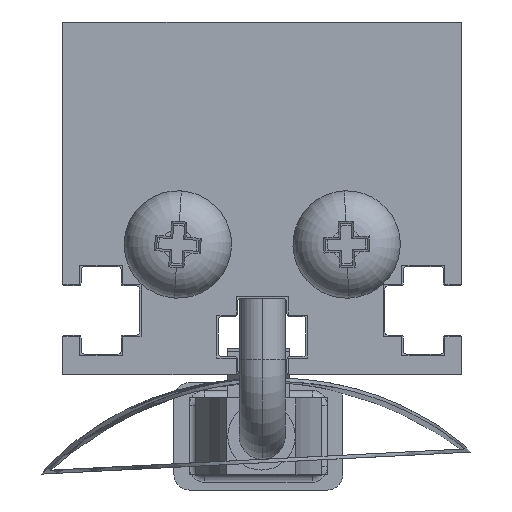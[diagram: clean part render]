
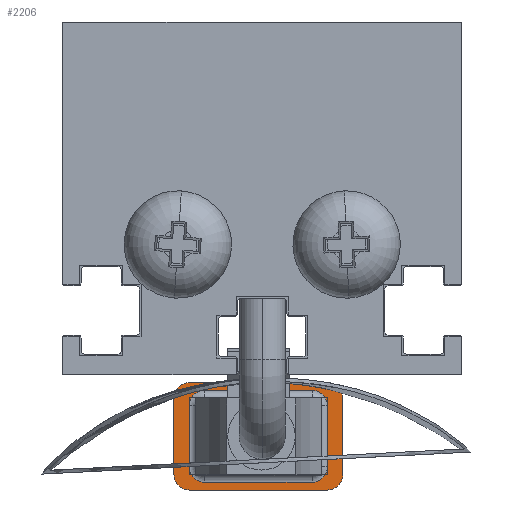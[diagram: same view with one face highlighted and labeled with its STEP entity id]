
A CAD part, left-side view. The second image highlights one B-rep face of the part: STEP entity #2206.
In plain terms, the highlighted planar face has unit normal (-1, 0, 0).
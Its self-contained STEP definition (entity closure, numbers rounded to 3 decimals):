
#2206=ADVANCED_FACE('NONE',(#4487,#4488),#4489,.F.);
#4487=FACE_OUTER_BOUND('',#7072,.T.);
#4488=FACE_BOUND('',#7073,.T.);
#4489=PLANE('',#7074);
#7072=EDGE_LOOP('',(#13642,#13643,#13644,#13645,#13646,#13647,#13648,#13649,#13650,#13651,#13652,#13653));
#7073=EDGE_LOOP('',(#13654,#13655,#13656,#13657,#13658,#13659,#13660,#13661));
#7074=AXIS2_PLACEMENT_3D('',#13662,#13663,#13664);
#13642=ORIENTED_EDGE('',*,*,#18069,.T.);
#13643=ORIENTED_EDGE('',*,*,#17871,.T.);
#13644=ORIENTED_EDGE('',*,*,#18077,.F.);
#13645=ORIENTED_EDGE('',*,*,#17866,.T.);
#13646=ORIENTED_EDGE('',*,*,#18090,.F.);
#13647=ORIENTED_EDGE('',*,*,#17913,.T.);
#13648=ORIENTED_EDGE('',*,*,#18088,.F.);
#13649=ORIENTED_EDGE('',*,*,#17922,.F.);
#13650=ORIENTED_EDGE('',*,*,#18072,.F.);
#13651=ORIENTED_EDGE('',*,*,#17863,.T.);
#13652=ORIENTED_EDGE('',*,*,#18080,.T.);
#13653=ORIENTED_EDGE('',*,*,#17858,.T.);
#13654=ORIENTED_EDGE('',*,*,#17887,.F.);
#13655=ORIENTED_EDGE('',*,*,#17877,.T.);
#13656=ORIENTED_EDGE('',*,*,#17890,.F.);
#13657=ORIENTED_EDGE('',*,*,#17898,.T.);
#13658=ORIENTED_EDGE('',*,*,#17906,.F.);
#13659=ORIENTED_EDGE('',*,*,#17909,.T.);
#13660=ORIENTED_EDGE('',*,*,#17903,.F.);
#13661=ORIENTED_EDGE('',*,*,#17895,.T.);
#13662=CARTESIAN_POINT('',(11.0,9.5,3.5));
#13663=DIRECTION('',(1.0,0.0,0.0));
#13664=DIRECTION('',(0.0,1.0,0.0));
#17858=EDGE_CURVE('NONE',#22196,#22194,#22197,.T.);
#17863=EDGE_CURVE('NONE',#22205,#22203,#22206,.T.);
#17866=EDGE_CURVE('NONE',#22209,#22210,#22211,.T.);
#17871=EDGE_CURVE('NONE',#22218,#22219,#22220,.T.);
#17877=EDGE_CURVE('NONE',#22230,#22228,#22231,.T.);
#17887=EDGE_CURVE('NONE',#22230,#22244,#22248,.T.);
#17890=EDGE_CURVE('NONE',#22251,#22228,#22253,.T.);
#17895=EDGE_CURVE('NONE',#22256,#22244,#22260,.T.);
#17898=EDGE_CURVE('NONE',#22251,#22263,#22265,.T.);
#17903=EDGE_CURVE('NONE',#22256,#22268,#22272,.T.);
#17906=EDGE_CURVE('NONE',#22275,#22263,#22277,.T.);
#17909=EDGE_CURVE('NONE',#22275,#22268,#22280,.T.);
#17913=EDGE_CURVE('NONE',#22286,#22283,#22287,.T.);
#17922=EDGE_CURVE('NONE',#22301,#22294,#22303,.T.);
#18069=EDGE_CURVE('NONE',#22194,#22218,#22540,.T.);
#18072=EDGE_CURVE('NONE',#22205,#22301,#22543,.T.);
#18077=EDGE_CURVE('NONE',#22209,#22219,#22548,.T.);
#18080=EDGE_CURVE('NONE',#22203,#22196,#22551,.T.);
#18088=EDGE_CURVE('NONE',#22294,#22283,#22559,.T.);
#18090=EDGE_CURVE('NONE',#22286,#22210,#22561,.T.);
#22194=VERTEX_POINT('NONE',#28446);
#22196=VERTEX_POINT('NONE',#28449);
#22197=CIRCLE('',#28450,1.0);
#22203=VERTEX_POINT('NONE',#28457);
#22205=VERTEX_POINT('NONE',#28460);
#22206=CIRCLE('',#28461,1.0);
#22209=VERTEX_POINT('NONE',#28465);
#22210=VERTEX_POINT('NONE',#28466);
#22211=CIRCLE('',#28467,1.0);
#22218=VERTEX_POINT('NONE',#28476);
#22219=VERTEX_POINT('NONE',#28477);
#22220=CIRCLE('',#28478,1.0);
#22228=VERTEX_POINT('NONE',#28488);
#22230=VERTEX_POINT('NONE',#28490);
#22231=LINE('',#28491,#28492);
#22244=VERTEX_POINT('NONE',#28508);
#22248=CIRCLE('',#28512,1.0);
#22251=VERTEX_POINT('NONE',#28515);
#22253=CIRCLE('',#28517,1.0);
#22256=VERTEX_POINT('NONE',#28520);
#22260=LINE('',#28525,#28526);
#22263=VERTEX_POINT('NONE',#28529);
#22265=LINE('',#28531,#28532);
#22268=VERTEX_POINT('NONE',#28536);
#22272=CIRCLE('',#28540,1.0);
#22275=VERTEX_POINT('NONE',#28543);
#22277=CIRCLE('',#28545,1.0);
#22280=LINE('',#28548,#28549);
#22283=VERTEX_POINT('NONE',#28553);
#22286=VERTEX_POINT('NONE',#28557);
#22287=LINE('',#28558,#28559);
#22294=VERTEX_POINT('NONE',#28569);
#22301=VERTEX_POINT('NONE',#28579);
#22303=LINE('',#28582,#28583);
#22540=LINE('',#28941,#28942);
#22543=LINE('',#28946,#28947);
#22548=LINE('',#28954,#28955);
#22551=LINE('',#28959,#28960);
#22559=LINE('',#28971,#28972);
#22561=LINE('',#28974,#28975);
#28446=CARTESIAN_POINT('',(11.0,8.5,-3.5));
#28449=CARTESIAN_POINT('',(11.0,9.5,-2.5));
#28450=AXIS2_PLACEMENT_3D('',#37073,#37074,#37075);
#28457=CARTESIAN_POINT('',(11.0,9.5,2.5));
#28460=CARTESIAN_POINT('',(11.0,8.5,3.5));
#28461=AXIS2_PLACEMENT_3D('',#37081,#37082,#37083);
#28465=CARTESIAN_POINT('',(11.0,-1.5,2.5));
#28466=CARTESIAN_POINT('',(11.0,-0.5,3.5));
#28467=AXIS2_PLACEMENT_3D('',#37085,#37086,#37087);
#28476=CARTESIAN_POINT('',(11.0,-0.5,-3.5));
#28477=CARTESIAN_POINT('',(11.0,-1.5,-2.5));
#28478=AXIS2_PLACEMENT_3D('',#37093,#37094,#37095);
#28488=CARTESIAN_POINT('',(11.0,0.5,3.0));
#28490=CARTESIAN_POINT('',(11.0,7.5,3.0));
#28491=CARTESIAN_POINT('',(11.0,9.5,3.0));
#28492=VECTOR('',#37104,1000.0);
#28508=CARTESIAN_POINT('',(11.0,8.5,2.0));
#28512=AXIS2_PLACEMENT_3D('',#37123,#37124,#37125);
#28515=CARTESIAN_POINT('',(11.0,-0.5,2.0));
#28517=AXIS2_PLACEMENT_3D('',#37129,#37130,#37131);
#28520=CARTESIAN_POINT('',(11.0,8.5,-2.0));
#28525=CARTESIAN_POINT('',(11.0,8.5,2.5));
#28526=VECTOR('',#37139,1000.0);
#28529=CARTESIAN_POINT('',(11.0,-0.5,-2.0));
#28531=CARTESIAN_POINT('',(11.0,-0.5,-2.5));
#28532=VECTOR('',#37143,1000.0);
#28536=CARTESIAN_POINT('',(11.0,7.5,-3.0));
#28540=AXIS2_PLACEMENT_3D('',#37151,#37152,#37153);
#28543=CARTESIAN_POINT('',(11.0,0.5,-3.0));
#28545=AXIS2_PLACEMENT_3D('',#37157,#37158,#37159);
#28548=CARTESIAN_POINT('',(11.0,8.0,-3.0));
#28549=VECTOR('',#37163,1000.0);
#28553=CARTESIAN_POINT('',(11.0,3.0,4.0));
#28557=CARTESIAN_POINT('',(11.0,3.0,3.5));
#28558=CARTESIAN_POINT('',(11.0,3.0,4.0));
#28559=VECTOR('',#37166,1000.0);
#28569=CARTESIAN_POINT('',(11.0,5.0,4.0));
#28579=CARTESIAN_POINT('',(11.0,5.0,3.5));
#28582=CARTESIAN_POINT('',(11.0,5.0,4.0));
#28583=VECTOR('',#37174,1000.0);
#28941=CARTESIAN_POINT('',(11.0,9.5,-3.5));
#28942=VECTOR('',#37296,1000.0);
#28946=CARTESIAN_POINT('',(11.0,9.5,3.5));
#28947=VECTOR('',#37298,1000.0);
#28954=CARTESIAN_POINT('',(11.0,-1.5,3.5));
#28955=VECTOR('',#37301,1000.0);
#28959=CARTESIAN_POINT('',(11.0,9.5,3.5));
#28960=VECTOR('',#37303,1000.0);
#28971=CARTESIAN_POINT('',(11.0,5.0,4.0));
#28972=VECTOR('',#37307,1000.0);
#28974=CARTESIAN_POINT('',(11.0,9.5,3.5));
#28975=VECTOR('',#37308,1000.0);
#37073=CARTESIAN_POINT('',(11.0,8.5,-2.5));
#37074=DIRECTION('',(-1.0,0.0,0.0));
#37075=DIRECTION('',(0.0,0.0,-1.0));
#37081=CARTESIAN_POINT('',(11.0,8.5,2.5));
#37082=DIRECTION('',(-1.0,0.0,0.0));
#37083=DIRECTION('',(0.0,0.0,-1.0));
#37085=CARTESIAN_POINT('',(11.0,-0.5,2.5));
#37086=DIRECTION('',(-1.0,0.0,0.0));
#37087=DIRECTION('',(0.0,0.0,-1.0));
#37093=CARTESIAN_POINT('',(11.0,-0.5,-2.5));
#37094=DIRECTION('',(-1.0,0.0,0.0));
#37095=DIRECTION('',(0.0,0.0,-1.0));
#37104=DIRECTION('',(0.0,-1.0,0.0));
#37123=CARTESIAN_POINT('',(11.0,7.5,2.0));
#37124=DIRECTION('',(-1.0,0.0,0.0));
#37125=DIRECTION('',(0.0,0.0,-1.0));
#37129=CARTESIAN_POINT('',(11.0,0.5,2.0));
#37130=DIRECTION('',(-1.0,0.0,0.0));
#37131=DIRECTION('',(0.0,0.0,-1.0));
#37139=DIRECTION('',(0.0,0.0,1.0));
#37143=DIRECTION('',(0.0,0.0,-1.0));
#37151=CARTESIAN_POINT('',(11.0,7.5,-2.0));
#37152=DIRECTION('',(-1.0,0.0,0.0));
#37153=DIRECTION('',(0.0,0.0,-1.0));
#37157=CARTESIAN_POINT('',(11.0,0.5,-2.0));
#37158=DIRECTION('',(-1.0,0.0,0.0));
#37159=DIRECTION('',(0.0,0.0,-1.0));
#37163=DIRECTION('',(0.0,1.0,0.0));
#37166=DIRECTION('',(0.0,0.0,1.0));
#37174=DIRECTION('',(0.0,0.0,1.0));
#37296=DIRECTION('',(0.0,-1.0,0.0));
#37298=DIRECTION('',(0.0,-1.0,0.0));
#37301=DIRECTION('',(0.0,0.0,-1.0));
#37303=DIRECTION('',(0.0,0.0,-1.0));
#37307=DIRECTION('',(0.0,-1.0,0.0));
#37308=DIRECTION('',(0.0,-1.0,0.0));
